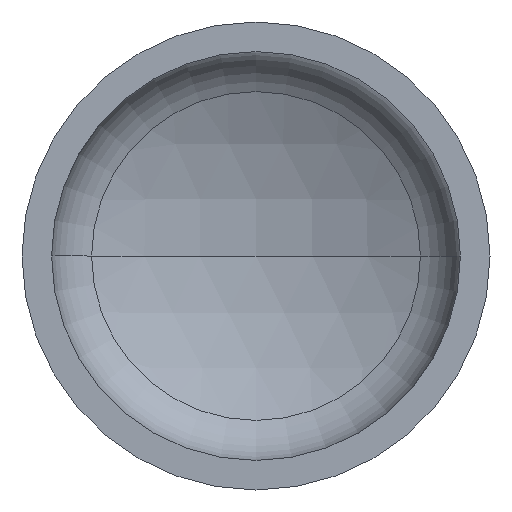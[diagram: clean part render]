
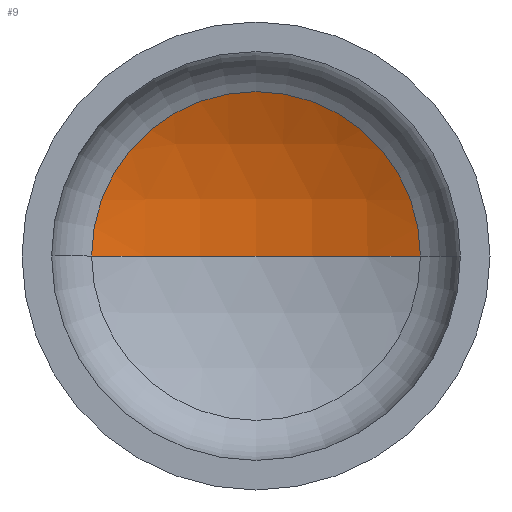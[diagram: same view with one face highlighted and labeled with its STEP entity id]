
A CAD part, front view. The second image highlights one B-rep face of the part: STEP entity #9.
In plain terms, the highlighted spherical face has radius 1520 mm.
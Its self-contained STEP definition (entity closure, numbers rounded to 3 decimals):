
#1 = VERTEX_POINT ( 'NONE', #210 ) ;
#3 = DIRECTION ( 'NONE',  ( 0., 0., -1. ) ) ;
#6 = DIRECTION ( 'NONE',  ( 0., 0., 1. ) ) ;
#9 = ADVANCED_FACE ( 'NONE', ( #71 ), #376, .F. ) ;
#14 = CARTESIAN_POINT ( 'NONE',  ( 0., -1030.124, 0. ) ) ;
#22 = AXIS2_PLACEMENT_3D ( 'NONE', #14, #6, #284 ) ;
#23 = AXIS2_PLACEMENT_3D ( 'NONE', #172, #3, #247 ) ;
#24 = AXIS2_PLACEMENT_3D ( 'NONE', #143, #147, #148 ) ;
#40 = AXIS2_PLACEMENT_3D ( 'NONE', #204, #251, #255 ) ;
#41 = CIRCLE ( 'NONE', #24, 667.317 ) ;
#60 = EDGE_CURVE ( 'NONE', #1, #188, #41, .T. ) ;
#61 = EDGE_CURVE ( 'NONE', #150, #1, #359, .T. ) ;
#63 = EDGE_CURVE ( 'NONE', #150, #188, #200, .T. ) ;
#71 = FACE_OUTER_BOUND ( 'NONE', #170, .T. ) ;
#143 = CARTESIAN_POINT ( 'NONE',  ( 0., 335.558, 0. ) ) ;
#147 = DIRECTION ( 'NONE',  ( 0., -1., 0. ) ) ;
#148 = DIRECTION ( 'NONE',  ( 1., 0., 0. ) ) ;
#150 = VERTEX_POINT ( 'NONE', #222 ) ;
#170 = EDGE_LOOP ( 'NONE', ( #386, #409, #370 ) ) ;
#172 = CARTESIAN_POINT ( 'NONE',  ( 0., -1030.124, 0. ) ) ;
#188 = VERTEX_POINT ( 'NONE', #242 ) ;
#200 = CIRCLE ( 'NONE', #22, 1520. ) ;
#204 = CARTESIAN_POINT ( 'NONE',  ( 0., -1030.124, 0. ) ) ;
#210 = CARTESIAN_POINT ( 'NONE',  ( 667.317, 335.558, 0. ) ) ;
#222 = CARTESIAN_POINT ( 'NONE',  ( 0., 489.876, 0. ) ) ;
#242 = CARTESIAN_POINT ( 'NONE',  ( -667.317, 335.558, 0. ) ) ;
#247 = DIRECTION ( 'NONE',  ( -1., 0., 0. ) ) ;
#251 = DIRECTION ( 'NONE',  ( 0., 0., -1. ) ) ;
#255 = DIRECTION ( 'NONE',  ( -1., 0., 0. ) ) ;
#284 = DIRECTION ( 'NONE',  ( 1., 0., 0. ) ) ;
#359 = CIRCLE ( 'NONE', #23, 1520. ) ;
#370 = ORIENTED_EDGE ( 'NONE', *, *, #60, .T. ) ;
#376 = SPHERICAL_SURFACE ( 'NONE', #40, 1520. ) ;
#386 = ORIENTED_EDGE ( 'NONE', *, *, #63, .F. ) ;
#409 = ORIENTED_EDGE ( 'NONE', *, *, #61, .T. ) ;
